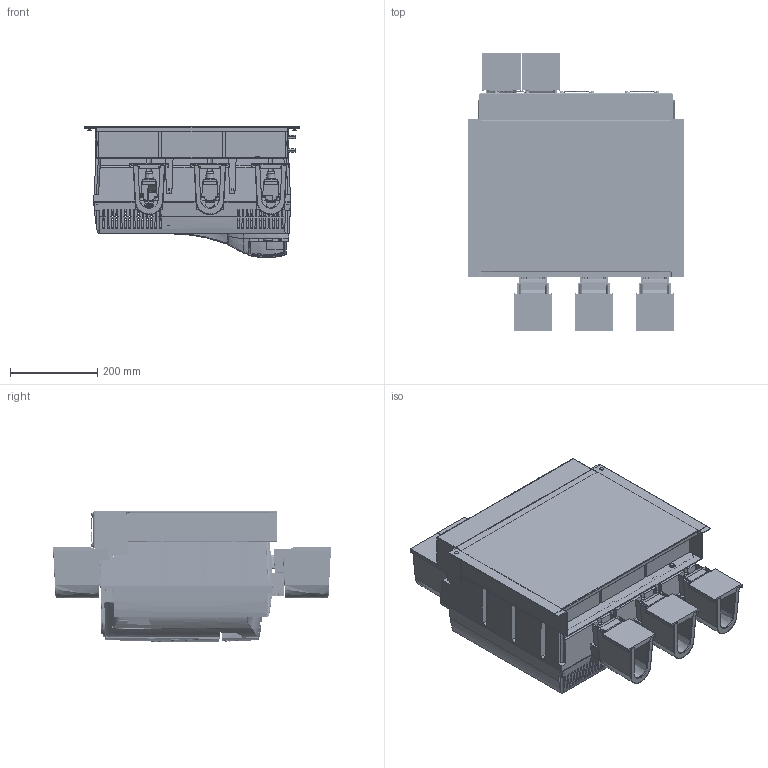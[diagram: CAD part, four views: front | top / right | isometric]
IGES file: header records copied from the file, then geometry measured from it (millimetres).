
Start section:  PTC IGES file: mentor_mp_2b.igs
Global section: file name: mentor_mp_2b.igs; native system: Pro/ENGINEER by Parametric Technology Corporation; preprocessor: 2007160; author: wongch01; organization: Unknown; date: 20100322.112000; units: millimetre
Bounding box: 495 x 638.96 x 302.09 mm (x, y, z)
Surface area: 3293358.6 mm2 (no closed solid volume)
Topology: 0 solids, 206 shells, 3362 faces, 12572 edges, 8963 vertices
Faces by surface type: bspline 3362
